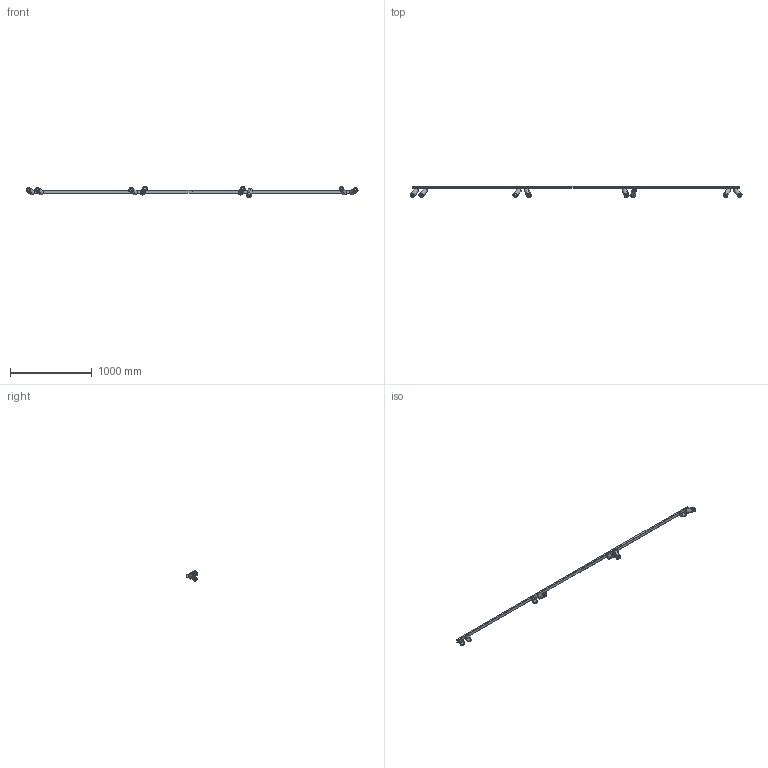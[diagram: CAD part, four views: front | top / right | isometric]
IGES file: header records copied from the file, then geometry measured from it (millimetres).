
Start section: SolidWorks IGES file using analytic representation for surfaces
Global section: file name: Z:\Modele 3D_WWW\_KOLEKCJE_WWW\MONO\MONO-CORNER\MONO-VIII-2X200-GOLD-7696-7701\MONO-VIII-2X200-GOLD-7696-7701.IGS; native system: SolidWorks 2021; preprocessor: SolidWorks 2021; author: gabriela.tworek; date: 210820.102220; units: millimetre
Bounding box: 4071.75 x 135.98 x 137.6 mm (x, y, z)
Surface area: 1096462.6 mm2 (no closed solid volume)
Topology: 0 solids, 0 shells, 1852 faces, 29176 edges, 29164 vertices
Faces by surface type: revolution 1156, bspline 696
